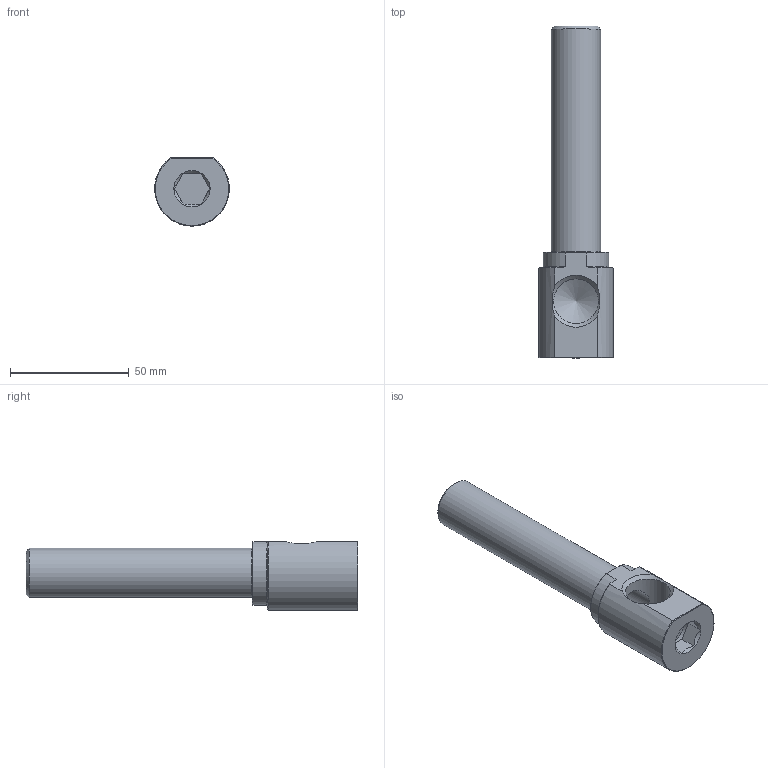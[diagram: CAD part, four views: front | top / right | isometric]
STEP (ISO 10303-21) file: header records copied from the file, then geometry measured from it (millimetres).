
FILE_DESCRIPTION(/* description */ (''),/* implementation_level */ '2;1');
FILE_NAME(/* name */ 'C:/Users/drich/Desktop/EKL50 X 5.5 v2.step',/* time_stamp */ '2019-11-18T14:43:32-06:00',/* author */ (''),/* organization */ (''),/* preprocessor_version */ 'ST-DEVELOPER v18',/* originating_system */ 'Autodesk Translation Framework v8.12.0.6',/* authorisation */ '');
FILE_SCHEMA (('AUTOMOTIVE_DESIGN { 1 0 10303 214 3 1 1 }'));
Length unit declared in the file: inch
Products named in the file (2): EKL50 X 5.5; EKL50X 5-1/2
Assembly tree (1 placements, depth 2):
  EKL50 X 5.5
    EKL50X 5-1/2
Bounding box: 31.46 x 139.7 x 28.75 mm (x, y, z)
Volume: 39563.3 mm3; surface area: 18058.7 mm2
Topology: 1 solids, 1 shells, 32 faces, 81 edges, 53 vertices
Faces by surface type: plane 16, cone 10, cylinder 6
Full cylindrical faces by diameter (mm): 14.275 x1, 14.986 x1, 18.901 x1, 20.813 x1
Entity records: 1072 total; most frequent: CARTESIAN_POINT 263, ORIENTED_EDGE 160, DIRECTION 156, EDGE_CURVE 80, AXIS2_PLACEMENT_3D 61, VERTEX_POINT 53, EDGE_LOOP 37, LINE 34
